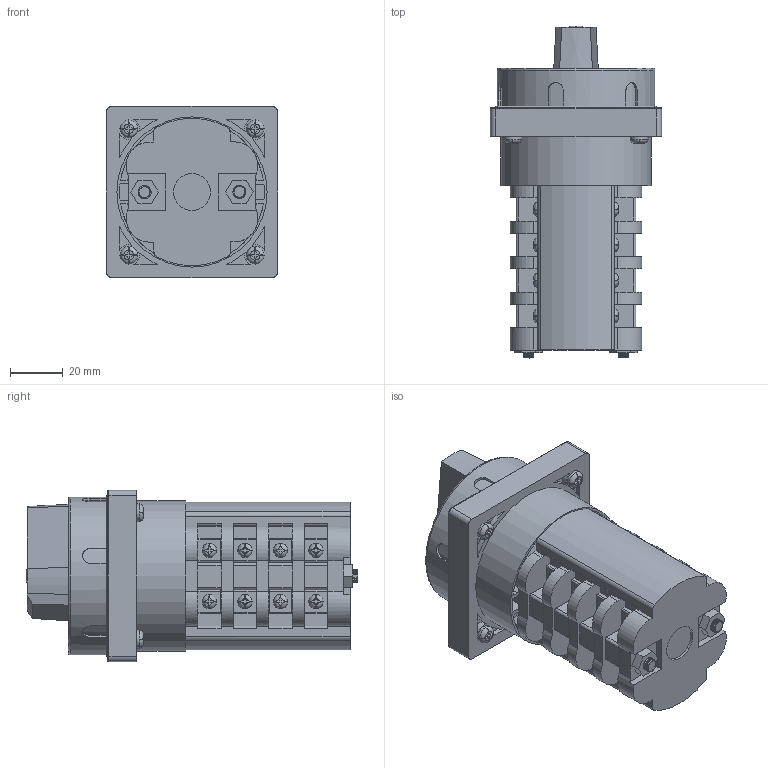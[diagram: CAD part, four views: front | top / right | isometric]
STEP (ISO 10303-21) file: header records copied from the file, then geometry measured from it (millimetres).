
FILE_DESCRIPTION(/* description */ (''),/* implementation_level */ '2;1');
FILE_NAME(/* name */ '4G16,25_S6_4_korpusy.stp',/* time_stamp */ '2021-07-21T09:35:44+02:00',/* author */ (''),/* organization */ (''),/* preprocessor_version */ 'ST-DEVELOPER v18.1',/* originating_system */ 'SIEMENS PLM Software NX 1965',/* authorisation */ '');
FILE_SCHEMA (('AUTOMOTIVE_DESIGN { 1 0 10303 214 3 1 1 1 }'));
Products named in the file (1): 4G16,25_S6_4_korpusy_stp
Bounding box: 65 x 126.1 x 65 mm (x, y, z)
Volume: 238314.5 mm3; surface area: 55219.3 mm2
Topology: 2 solids, 11 shells, 1224 faces, 3420 edges, 2244 vertices
Faces by surface type: plane 695, cylinder 343, bspline 127, cone 38, torus 15, extrusion 6
Full cylindrical faces by diameter (mm): 2.9 x7, 3.1 x1, 4.3 x4, 5 x2, 5.4 x17, 5.6 x1, 6 x1, 6.7 x4, 7.2 x4, 8 x1, 14 x1, 55.8 x1, 57 x1, 58 x1, 60 x1
Entity records: 114451 total; most frequent: CARTESIAN_POINT 84598, ORIENTED_EDGE 6540, DIRECTION 5537, EDGE_CURVE 3270, VERTEX_POINT 2173, AXIS2_PLACEMENT_3D 1972, VECTOR 1593, LINE 1587
